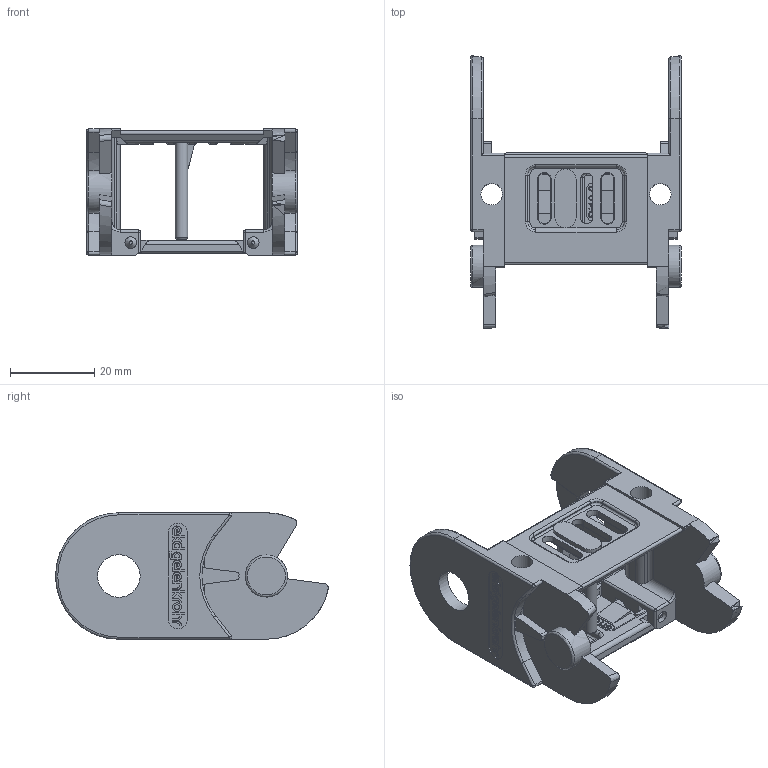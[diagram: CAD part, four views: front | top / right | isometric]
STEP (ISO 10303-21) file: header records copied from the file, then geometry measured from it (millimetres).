
FILE_DESCRIPTION((''),'2;1');
FILE_NAME('C:\Uebbing\PARAMETERKETTEN\KOLIBRI\Kol_30_050_1\Kol_30_050_1.stp','2011-11-02T11:42:27',('Uebbing'),(''),'Autodesk Inventor 10','Autodesk Inventor 10','');
FILE_SCHEMA(('AUTOMOTIVE_DESIGN { 1 0 10303 214 1 1 1 1 }'));
Length unit declared in the file: millimetre
Products named in the file (4): Kol_30_050_1; PZ 30 Stecksteg; Kol 30_050_1 Lasche; Kol 30_050_0 Klappsteg
Assembly tree (3 placements, depth 2):
  Kol_30_050_1
    PZ 30 Stecksteg
    Kol 30_050_1 Lasche
    Kol 30_050_0 Klappsteg
Bounding box: 50 x 64.71 x 30 mm (x, y, z)
Volume: 14781.2 mm3; surface area: 14976.1 mm2
Topology: 3 solids, 3 shells, 955 faces, 2610 edges, 1710 vertices
Faces by surface type: plane 481, bspline 230, cylinder 189, torus 43, cone 8, sphere 4
Full cylindrical faces by diameter (mm): 1.166 x1, 2.048 x1, 2.8 x8, 5.1 x2, 10 x1, 10.1 x2
Entity records: 32892 total; most frequent: CARTESIAN_POINT 9799, ORIENTED_EDGE 5138, DIRECTION 4154, EDGE_CURVE 2569, VERTEX_POINT 1697, VECTOR 1612, LINE 1612, AXIS2_PLACEMENT_3D 1271
